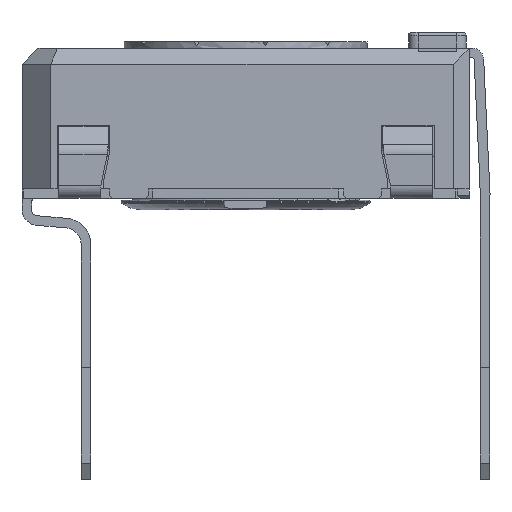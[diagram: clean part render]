
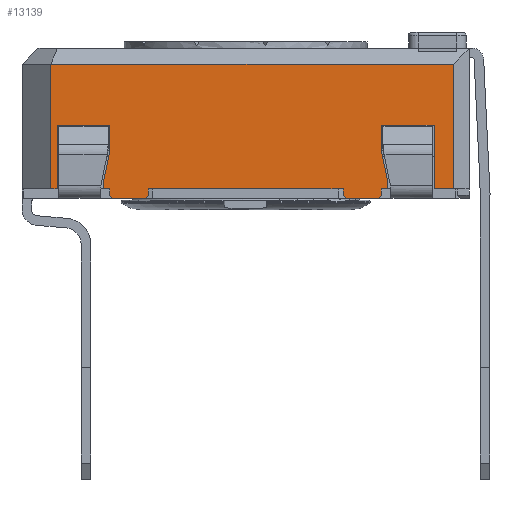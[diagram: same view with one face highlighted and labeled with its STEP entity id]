
A CAD part, left-side view. The second image highlights one B-rep face of the part: STEP entity #13139.
In plain terms, the highlighted planar face has unit normal (-1, 0, 0).
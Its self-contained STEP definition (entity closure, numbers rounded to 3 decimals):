
#1247=FACE_OUTER_BOUND('',#1945,.T.);
#1945=EDGE_LOOP('',(#10709,#10710,#10711,#10712,#10713,#10714,#10715,#10716,
#10717,#10718,#10719,#10720,#10721,#10722,#10723,#10724,#10725,#10726,#10727,
#10728,#10729,#10730,#10731,#10732,#10733,#10734,#10735,#10736));
#2951=LINE('',#20056,#4463);
#2957=LINE('',#20068,#4469);
#2960=LINE('',#20075,#4472);
#2965=LINE('',#20084,#4477);
#2985=LINE('',#20125,#4497);
#2999=LINE('',#20151,#4511);
#3003=LINE('',#20158,#4515);
#3018=LINE('',#20187,#4530);
#3021=LINE('',#20193,#4533);
#3026=LINE('',#20203,#4538);
#3029=LINE('',#20209,#4541);
#3032=LINE('',#20215,#4544);
#3050=LINE('',#20250,#4562);
#3062=LINE('',#20272,#4574);
#3065=LINE('',#20278,#4577);
#3102=LINE('',#20412,#4614);
#3105=LINE('',#20418,#4617);
#3131=LINE('',#20465,#4643);
#3136=LINE('',#20475,#4648);
#3138=LINE('',#20478,#4650);
#3262=LINE('',#20786,#4774);
#3264=LINE('',#20791,#4776);
#3267=LINE('',#20795,#4779);
#3269=LINE('',#20799,#4781);
#3272=LINE('',#20807,#4784);
#3273=LINE('',#20809,#4785);
#3274=LINE('',#20810,#4786);
#3275=LINE('',#20811,#4787);
#4463=VECTOR('',#16128,10.);
#4469=VECTOR('',#16136,10.);
#4472=VECTOR('',#16141,10.);
#4477=VECTOR('',#16148,10.);
#4497=VECTOR('',#16182,10.);
#4511=VECTOR('',#16196,10.);
#4515=VECTOR('',#16200,10.);
#4530=VECTOR('',#16227,10.);
#4533=VECTOR('',#16232,10.);
#4538=VECTOR('',#16239,10.);
#4541=VECTOR('',#16244,10.);
#4544=VECTOR('',#16249,10.);
#4562=VECTOR('',#16269,10.);
#4574=VECTOR('',#16283,10.);
#4577=VECTOR('',#16288,10.);
#4614=VECTOR('',#16369,10.);
#4617=VECTOR('',#16374,10.);
#4643=VECTOR('',#16402,10.);
#4648=VECTOR('',#16409,10.);
#4650=VECTOR('',#16413,10.);
#4774=VECTOR('',#16705,10.);
#4776=VECTOR('',#16709,10.);
#4779=VECTOR('',#16714,10.);
#4781=VECTOR('',#16720,10.);
#4784=VECTOR('',#16731,10.);
#4785=VECTOR('',#16732,10.);
#4786=VECTOR('',#16733,10.);
#4787=VECTOR('',#16734,10.);
#5878=VERTEX_POINT('',#20053);
#5879=VERTEX_POINT('',#20055);
#5883=VERTEX_POINT('',#20065);
#5885=VERTEX_POINT('',#20071);
#5887=VERTEX_POINT('',#20074);
#5890=VERTEX_POINT('',#20082);
#5915=VERTEX_POINT('',#20148);
#5916=VERTEX_POINT('',#20150);
#5918=VERTEX_POINT('',#20155);
#5919=VERTEX_POINT('',#20157);
#5926=VERTEX_POINT('',#20184);
#5928=VERTEX_POINT('',#20190);
#5932=VERTEX_POINT('',#20200);
#5934=VERTEX_POINT('',#20206);
#5937=VERTEX_POINT('',#20213);
#5953=VERTEX_POINT('',#20248);
#5962=VERTEX_POINT('',#20270);
#5964=VERTEX_POINT('',#20276);
#5991=VERTEX_POINT('',#20410);
#5992=VERTEX_POINT('',#20415);
#6012=VERTEX_POINT('',#20462);
#6016=VERTEX_POINT('',#20472);
#6090=VERTEX_POINT('',#20783);
#6091=VERTEX_POINT('',#20785);
#6092=VERTEX_POINT('',#20789);
#6093=VERTEX_POINT('',#20790);
#6094=VERTEX_POINT('',#20806);
#6095=VERTEX_POINT('',#20808);
#7403=EDGE_CURVE('',#5879,#5878,#2951,.T.);
#7409=EDGE_CURVE('',#5878,#5883,#2957,.T.);
#7412=EDGE_CURVE('',#5887,#5885,#2960,.T.);
#7417=EDGE_CURVE('',#5890,#5885,#2965,.T.);
#7437=EDGE_CURVE('',#5883,#5887,#2985,.T.);
#7451=EDGE_CURVE('',#5916,#5915,#2999,.T.);
#7455=EDGE_CURVE('',#5919,#5918,#3003,.T.);
#7471=EDGE_CURVE('',#5915,#5926,#3018,.T.);
#7474=EDGE_CURVE('',#5926,#5928,#3021,.T.);
#7479=EDGE_CURVE('',#5928,#5932,#3026,.T.);
#7482=EDGE_CURVE('',#5932,#5934,#3029,.T.);
#7485=EDGE_CURVE('',#5934,#5937,#3032,.T.);
#7503=EDGE_CURVE('',#5937,#5953,#3050,.T.);
#7515=EDGE_CURVE('',#5962,#5953,#3062,.T.);
#7518=EDGE_CURVE('',#5964,#5962,#3065,.T.);
#7567=EDGE_CURVE('',#5991,#5964,#3102,.T.);
#7570=EDGE_CURVE('',#5991,#5992,#3105,.T.);
#7596=EDGE_CURVE('',#5992,#6012,#3131,.T.);
#7601=EDGE_CURVE('',#6012,#6016,#3136,.T.);
#7603=EDGE_CURVE('',#6016,#5879,#3138,.T.);
#7743=EDGE_CURVE('',#6090,#6091,#3262,.T.);
#7745=EDGE_CURVE('',#6092,#6093,#3264,.T.);
#7748=EDGE_CURVE('',#5916,#6090,#3267,.T.);
#7750=EDGE_CURVE('',#5918,#6093,#3269,.T.);
#7753=EDGE_CURVE('',#5890,#6094,#3272,.T.);
#7754=EDGE_CURVE('',#6095,#6094,#3273,.T.);
#7755=EDGE_CURVE('',#5919,#6095,#3274,.T.);
#7756=EDGE_CURVE('',#6092,#6091,#3275,.T.);
#10709=ORIENTED_EDGE('',*,*,#7409,.T.);
#10710=ORIENTED_EDGE('',*,*,#7437,.T.);
#10711=ORIENTED_EDGE('',*,*,#7412,.T.);
#10712=ORIENTED_EDGE('',*,*,#7417,.F.);
#10713=ORIENTED_EDGE('',*,*,#7753,.T.);
#10714=ORIENTED_EDGE('',*,*,#7754,.F.);
#10715=ORIENTED_EDGE('',*,*,#7755,.F.);
#10716=ORIENTED_EDGE('',*,*,#7455,.T.);
#10717=ORIENTED_EDGE('',*,*,#7750,.T.);
#10718=ORIENTED_EDGE('',*,*,#7745,.F.);
#10719=ORIENTED_EDGE('',*,*,#7756,.T.);
#10720=ORIENTED_EDGE('',*,*,#7743,.F.);
#10721=ORIENTED_EDGE('',*,*,#7748,.F.);
#10722=ORIENTED_EDGE('',*,*,#7451,.T.);
#10723=ORIENTED_EDGE('',*,*,#7471,.T.);
#10724=ORIENTED_EDGE('',*,*,#7474,.T.);
#10725=ORIENTED_EDGE('',*,*,#7479,.T.);
#10726=ORIENTED_EDGE('',*,*,#7482,.T.);
#10727=ORIENTED_EDGE('',*,*,#7485,.T.);
#10728=ORIENTED_EDGE('',*,*,#7503,.T.);
#10729=ORIENTED_EDGE('',*,*,#7515,.F.);
#10730=ORIENTED_EDGE('',*,*,#7518,.F.);
#10731=ORIENTED_EDGE('',*,*,#7567,.F.);
#10732=ORIENTED_EDGE('',*,*,#7570,.T.);
#10733=ORIENTED_EDGE('',*,*,#7596,.T.);
#10734=ORIENTED_EDGE('',*,*,#7601,.T.);
#10735=ORIENTED_EDGE('',*,*,#7603,.T.);
#10736=ORIENTED_EDGE('',*,*,#7403,.T.);
#12529=PLANE('',#14033);
#13139=ADVANCED_FACE('',(#1247),#12529,.T.);
#14033=AXIS2_PLACEMENT_3D('',#20805,#16729,#16730);
#16128=DIRECTION('',(0.,0.208,-0.978));
#16136=DIRECTION('',(0.,0.,-1.));
#16141=DIRECTION('',(0.,0.,-1.));
#16148=DIRECTION('',(0.,0.707,0.707));
#16182=DIRECTION('',(0.,-1.,0.));
#16196=DIRECTION('',(0.,-1.,0.));
#16200=DIRECTION('',(0.,-1.,0.));
#16227=DIRECTION('',(0.,0.,1.));
#16232=DIRECTION('',(0.,0.208,0.978));
#16239=DIRECTION('',(0.,0.,1.));
#16244=DIRECTION('',(0.,-1.,0.));
#16249=DIRECTION('',(0.,0.,-1.));
#16269=DIRECTION('',(0.,-1.,0.));
#16283=DIRECTION('',(0.,0.,-1.));
#16288=DIRECTION('',(0.,-1.,0.));
#16369=DIRECTION('',(0.,0.,1.));
#16374=DIRECTION('',(0.,-1.,0.));
#16402=DIRECTION('',(0.,0.,1.));
#16409=DIRECTION('',(0.,-1.,0.));
#16413=DIRECTION('',(0.,0.,-1.));
#16705=DIRECTION('',(0.,0.707,-0.707));
#16709=DIRECTION('',(0.,0.707,0.707));
#16714=DIRECTION('',(0.,0.,-1.));
#16720=DIRECTION('',(0.,0.,-1.));
#16729=DIRECTION('center_axis',(-1.,0.,0.));
#16730=DIRECTION('ref_axis',(0.,0.,1.));
#16731=DIRECTION('',(0.,-1.,0.));
#16732=DIRECTION('',(0.,0.707,-0.707));
#16733=DIRECTION('',(0.,0.,-1.));
#16734=DIRECTION('',(0.,-1.,0.));
#20053=CARTESIAN_POINT('',(-14.467,1.552,0.235));
#20055=CARTESIAN_POINT('',(-14.467,1.352,1.176));
#20056=CARTESIAN_POINT('',(-14.467,1.228,1.757));
#20065=CARTESIAN_POINT('',(-14.467,1.552,0.));
#20068=CARTESIAN_POINT('',(-14.467,1.552,0.));
#20071=CARTESIAN_POINT('',(-14.467,1.352,-0.2));
#20074=CARTESIAN_POINT('',(-14.467,1.352,0.));
#20075=CARTESIAN_POINT('',(-14.467,1.352,0.));
#20082=CARTESIAN_POINT('',(-14.467,1.252,-0.3));
#20084=CARTESIAN_POINT('',(-14.467,-1.436,-2.988));
#20125=CARTESIAN_POINT('',(-14.467,4.102,0.));
#20148=CARTESIAN_POINT('',(-14.467,-7.348,0.));
#20150=CARTESIAN_POINT('',(-14.467,-7.148,0.));
#20151=CARTESIAN_POINT('',(-14.467,4.102,0.));
#20155=CARTESIAN_POINT('',(-14.467,-5.948,0.));
#20157=CARTESIAN_POINT('',(-14.467,0.152,0.));
#20158=CARTESIAN_POINT('',(-14.467,4.102,0.));
#20184=CARTESIAN_POINT('',(-14.467,-7.348,0.235));
#20187=CARTESIAN_POINT('',(-14.467,-7.348,0.118));
#20190=CARTESIAN_POINT('',(-14.467,-7.148,1.176));
#20193=CARTESIAN_POINT('',(-14.467,-7.453,-0.254));
#20200=CARTESIAN_POINT('',(-14.467,-7.148,2.));
#20203=CARTESIAN_POINT('',(-14.467,-7.148,0.588));
#20206=CARTESIAN_POINT('',(-14.467,-8.798,2.));
#20209=CARTESIAN_POINT('',(-14.467,-8.523,2.));
#20213=CARTESIAN_POINT('',(-14.467,-8.798,0.));
#20215=CARTESIAN_POINT('',(-14.467,-8.798,0.));
#20248=CARTESIAN_POINT('',(-14.467,-9.398,0.));
#20250=CARTESIAN_POINT('',(-14.467,-9.595,0.));
#20270=CARTESIAN_POINT('',(-14.467,-9.398,3.9));
#20272=CARTESIAN_POINT('',(-14.467,-9.398,0.));
#20276=CARTESIAN_POINT('',(-14.467,3.202,3.9));
#20278=CARTESIAN_POINT('',(-14.467,-6.398,3.9));
#20410=CARTESIAN_POINT('',(-14.467,3.202,0.));
#20412=CARTESIAN_POINT('',(-14.467,3.202,0.));
#20415=CARTESIAN_POINT('',(-14.467,3.002,0.));
#20418=CARTESIAN_POINT('',(-14.467,-2.985,0.));
#20462=CARTESIAN_POINT('',(-14.467,3.002,2.));
#20465=CARTESIAN_POINT('',(-14.467,3.002,0.));
#20472=CARTESIAN_POINT('',(-14.467,1.352,2.));
#20475=CARTESIAN_POINT('',(-14.467,-3.448,2.));
#20478=CARTESIAN_POINT('',(-14.467,1.352,1.));
#20783=CARTESIAN_POINT('',(-14.467,-7.148,-0.2));
#20785=CARTESIAN_POINT('',(-14.467,-7.048,-0.3));
#20786=CARTESIAN_POINT('',(-14.467,-7.861,0.513));
#20789=CARTESIAN_POINT('',(-14.467,-6.048,-0.3));
#20790=CARTESIAN_POINT('',(-14.467,-5.948,-0.2));
#20791=CARTESIAN_POINT('',(-14.467,-6.911,-1.163));
#20795=CARTESIAN_POINT('',(-14.467,-7.148,0.));
#20799=CARTESIAN_POINT('',(-14.467,-5.948,0.));
#20805=CARTESIAN_POINT('Origin',(-14.467,-9.898,0.));
#20806=CARTESIAN_POINT('',(-14.467,0.252,-0.3));
#20807=CARTESIAN_POINT('',(-14.467,0.152,-0.3));
#20808=CARTESIAN_POINT('',(-14.467,0.152,-0.2));
#20809=CARTESIAN_POINT('',(-14.467,-2.386,2.338));
#20810=CARTESIAN_POINT('',(-14.467,0.152,0.));
#20811=CARTESIAN_POINT('',(-14.467,-7.148,-0.3));
